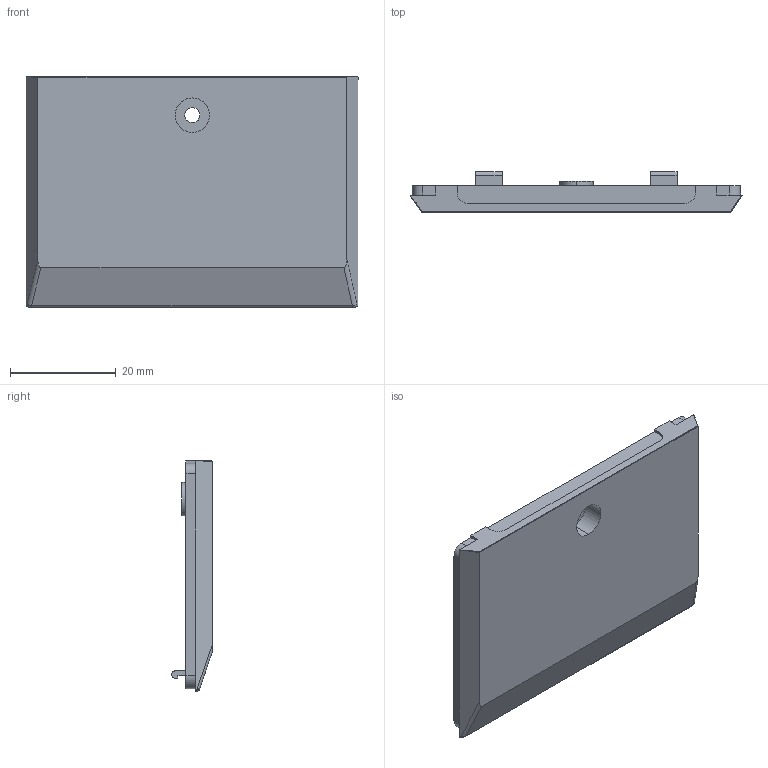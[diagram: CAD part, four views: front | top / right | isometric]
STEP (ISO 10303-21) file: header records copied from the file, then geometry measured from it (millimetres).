
FILE_DESCRIPTION (( 'STEP AP214' ), '1' );
FILE_NAME ('Tapeta PP86 B.STEP', '2016-11-14T15:11:04', ( 'aaa' ), ( '' ), 'SwSTEP 2.0', 'SolidWorks 2013', '' );
FILE_SCHEMA (( 'AUTOMOTIVE_DESIGN' ));
Length unit declared in the file: millimetre
Products named in the file (1): Tapeta PP86 B
Bounding box: 62.64 x 7.7 x 43.5 mm (x, y, z)
Volume: 6072.8 mm3; surface area: 7312.7 mm2
Topology: 1 solids, 1 shells, 95 faces, 258 edges, 169 vertices
Faces by surface type: plane 61, cylinder 29, cone 3, bspline 2
Entity records: 3149 total; most frequent: CARTESIAN_POINT 602, ORIENTED_EDGE 516, DIRECTION 488, EDGE_CURVE 258, LINE 190, VECTOR 190, VERTEX_POINT 169, AXIS2_PLACEMENT_3D 149
